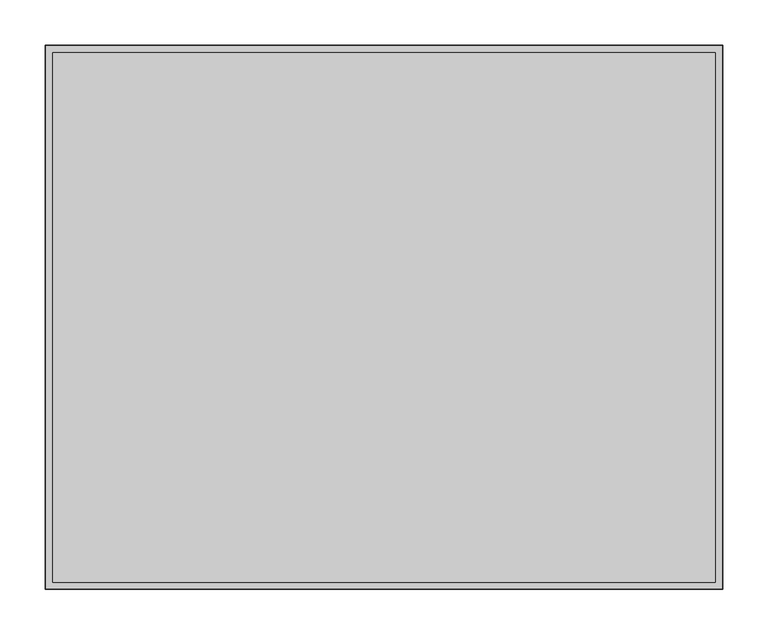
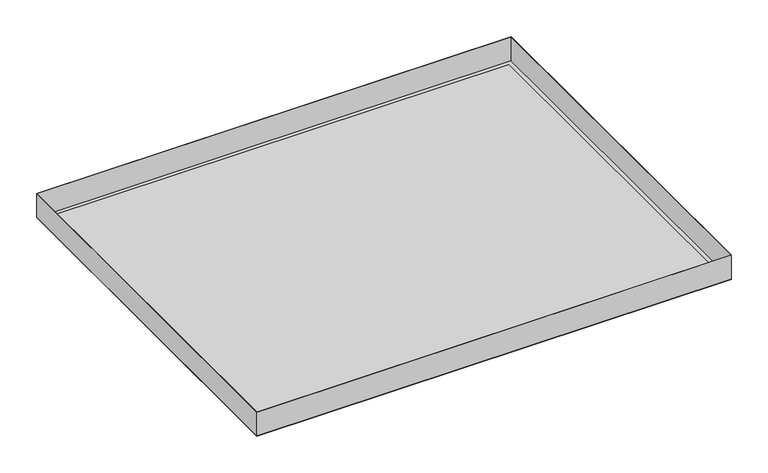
"""IFC4 building model written with IfcOpenShell, lengths in millimetres: proxy geometry, durlum_S-OM-100_panel : durlum_S-OM-100_panel_wall_length_cut."""

from ifc_helpers import new_model, si_unit, frame, origin, origin_with_axes, place, context, project, spatial, polyline, outline, extrude, source, transform, mapped, element, save


def generic_models_d23eb307(model_context):
    return source(origin(), model_context, "Body", "SweptSolid", [
        extrude(outline(polyline([(372.5, 299.5), (372.5, -299.5), (-372.5, -299.5), (-372.5, 299.5), (372.5, 299.5)]), holes=[polyline([(371.9, 298.9), (-371.9, 298.9), (-371.9, -298.9), (371.9, -298.9), (371.9, 298.9)])]), frame((0.0, 0.0, 0.6), z_axis=(0.0, 0.0, 1.0), x_axis=(1.0, 0.0, 0.0)), (0.0, 0.0, 1.0), 39.4),
        extrude(outline(polyline([(364.5, 291.5), (364.5, -291.5), (-364.5, -291.5), (-364.5, 291.5), (364.5, 291.5)])), frame((0.0, 0.0, 0.6), z_axis=(0.0, 0.0, 1.0), x_axis=(1.0, 0.0, 0.0)), (0.0, 0.0, 1.0), 0.6),
        extrude(outline(polyline([(372.5, 299.5), (372.5, -299.5), (-372.5, -299.5), (-372.5, 299.5), (372.5, 299.5)]), holes=[polyline([(364.5, 291.5), (-364.5, 291.5), (-364.5, -291.5), (364.5, -291.5), (364.5, 291.5)])]), origin_with_axes(), (0.0, 0.0, 1.0), 0.6),
        extrude(outline(polyline([(364.5, 291.5), (364.5, -291.5), (-364.5, -291.5), (-364.5, 291.5), (364.5, 291.5)])), origin_with_axes(), (0.0, 0.0, 1.0), 0.6),
    ])


if __name__ == "__main__":
    model = new_model("IFC4")
    model_context = context("Model", 3, world=origin())
    ifc_project = project(units=[si_unit("LENGTHUNIT", "METRE", prefix="MILLI")], contexts=[model_context])
    site = spatial("IfcSite", under=ifc_project)
    building = spatial("IfcBuilding", under=site)
    placement = place(None, origin())
    generic_models_shape = generic_models_d23eb307(model_context)
    element("IfcBuildingElementProxy", 1, Name="durlum_S-OM-100_panel : durlum_S-OM-100_panel_wall_length_cut", ObjectType="durlum_S-OM-100_panel : durlum_S-OM-100_panel_wall_length_cut", at=placement, inside=building, context=model_context, shape_type="MappedRepresentation", body=[
        mapped(generic_models_shape, transform((0.0, 0.0, 0.0), x_axis=(1.0, 0.0, 0.0), y_axis=(0.0, 1.0, 0.0), z_axis=(0.0, 0.0, 1.0))),
    ])
    save(model, "model.ifc")
